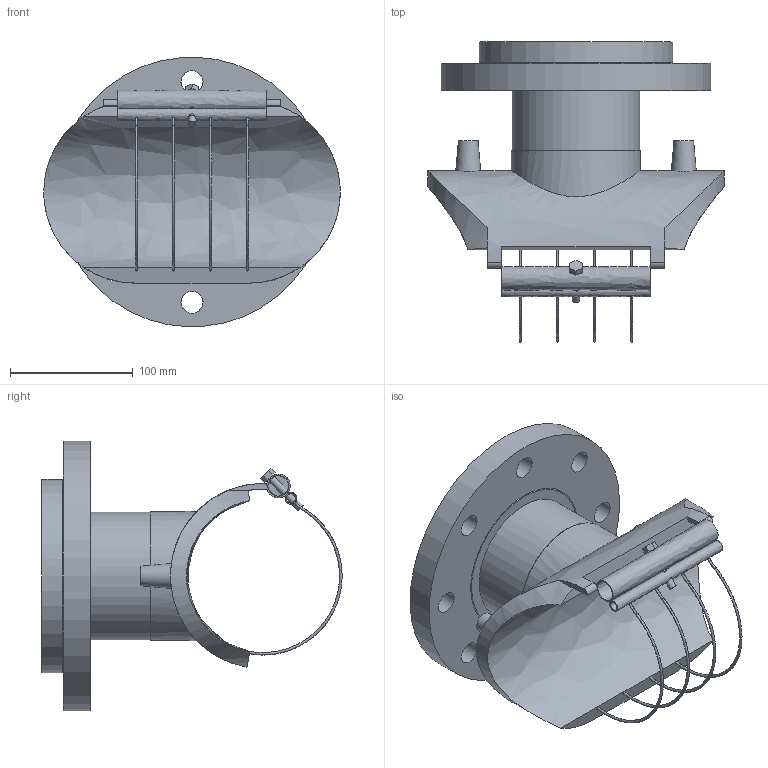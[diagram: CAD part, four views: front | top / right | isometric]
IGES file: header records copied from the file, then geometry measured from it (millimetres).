
Global section: file name: 4959X4125100T; native system: Autodesk Inventor 2019; preprocessor: unknown; author: KIM; date: 20220428.113648; units: millimetre
Bounding box: 242 x 245 x 219.82 mm (x, y, z)
Volume: 1638739.7 mm3; surface area: 301674 mm2
Topology: 2 solids, 2 shells, 78 faces, 239 edges, 166 vertices
Faces by surface type: bspline 78
